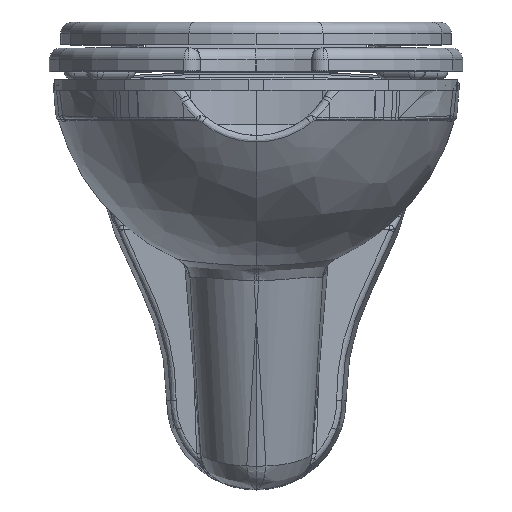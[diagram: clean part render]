
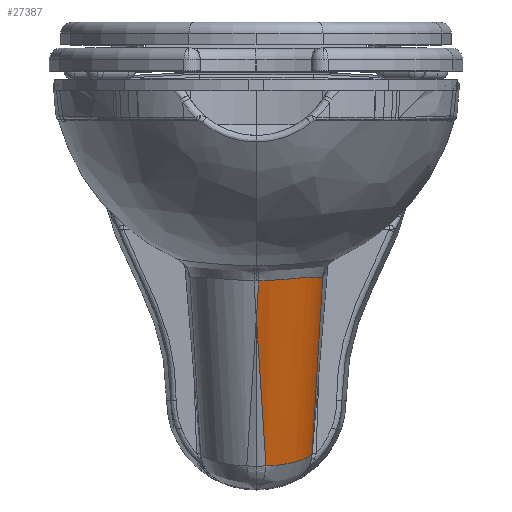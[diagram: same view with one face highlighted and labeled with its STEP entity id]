
A CAD part, top view. The second image highlights one B-rep face of the part: STEP entity #27387.
In plain terms, the highlighted cylindrical face has radius 58 mm (diameter 116 mm), a partial arc.
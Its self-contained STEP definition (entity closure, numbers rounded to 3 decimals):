
#38 = CARTESIAN_POINT ( 'NONE',  ( 2.937, -257.947, 136.846 ) ) ;
#125 = CARTESIAN_POINT ( 'NONE',  ( 38.672, -176.911, 149.078 ) ) ;
#708 = DIRECTION ( 'NONE',  ( 0., 0.304, -0.953 ) ) ;
#924 =( BOUNDED_CURVE ( )  B_SPLINE_CURVE ( 3, ( #8984, #22771, #38, #17175 ),
 .UNSPECIFIED., .F., .F. ) 
 B_SPLINE_CURVE_WITH_KNOTS ( ( 4, 4 ),
 ( 1.284, 1.571 ),
 .UNSPECIFIED. ) 
 CURVE ( )  GEOMETRIC_REPRESENTATION_ITEM ( )  RATIONAL_B_SPLINE_CURVE ( ( 1., 0.993, 0.993, 1. ) ) 
 REPRESENTATION_ITEM ( '' )  );
#2497 = CARTESIAN_POINT ( 'NONE',  ( 52.207, -176.061, 132.39 ) ) ;
#2984 = CARTESIAN_POINT ( 'NONE',  ( 29.766, -177.677, 155.145 ) ) ;
#3037 = CARTESIAN_POINT ( 'NONE',  ( 22.89, -343.127, 100.398 ) ) ;
#3147 = CARTESIAN_POINT ( 'NONE',  ( 17.879, -343.705, 103.159 ) ) ;
#3152 = CARTESIAN_POINT ( 'NONE',  ( 5.086, -130.276, 177.591 ) ) ;
#3271 = CARTESIAN_POINT ( 'NONE',  ( 19.16, -343.578, 102.511 ) ) ;
#4056 = AXIS2_PLACEMENT_3D ( 'NONE', #34810, #17712, #708 ) ;
#5494 = CARTESIAN_POINT ( 'NONE',  ( 59.149, -176.144, 108.26 ) ) ;
#5614 = CARTESIAN_POINT ( 'NONE',  ( 14.613, -178.845, 160.697 ) ) ;
#5741 = CARTESIAN_POINT ( 'NONE',  ( 55.198, -175.988, 125.856 ) ) ;
#5921 = CARTESIAN_POINT ( 'NONE',  ( 32.903, -341.24, 92.663 ) ) ;
#6047 = CARTESIAN_POINT ( 'NONE',  ( 48.888, -334.497, 63.644 ) ) ;
#6109 = B_SPLINE_CURVE_WITH_KNOTS ( 'NONE', 3,
 ( #28409, #17436, #6047, #22912, #20040, #9003, #14461, #28887, #17079, #11850, #31673, #5921, #31796, #25538, #14219, #3037, #22667, #3271, #3147, #34164, #8638, #14578, #34284, #25786 ),
 .UNSPECIFIED., .F., .F.,
 ( 4, 2, 2, 2, 2, 2, 2, 2, 2, 2, 2, 4 ),
 ( 0., 0.009, 0.017, 0.026, 0.034, 0.038, 0.043, 0.051, 0.056, 0.06, 0.064, 0.068 ),
 .UNSPECIFIED. ) ;
#6415 = CARTESIAN_POINT ( 'NONE',  ( 0.064, -213.313, 151.09 ) ) ;
#7404 = CARTESIAN_POINT ( 'NONE',  ( 49.634, -333.486, 58.045 ) ) ;
#7807 = EDGE_CURVE ( 'NONE', #16585, #34028, #6109, .T. ) ;
#8048 = VECTOR ( 'NONE', #35105, 1000. ) ;
#8207 = CARTESIAN_POINT ( 'NONE',  ( 18.965, -178.543, 159.579 ) ) ;
#8444 = CARTESIAN_POINT ( 'NONE',  ( 59.149, -176.144, 108.26 ) ) ;
#8456 = CARTESIAN_POINT ( 'NONE',  ( 34.353, -177.273, 152.359 ) ) ;
#8573 = VERTEX_POINT ( 'NONE', #6415 ) ;
#8638 = CARTESIAN_POINT ( 'NONE',  ( 13.952, -344.008, 104.922 ) ) ;
#8984 = CARTESIAN_POINT ( 'NONE',  ( 8.534, -344.214, 106.829 ) ) ;
#9003 = CARTESIAN_POINT ( 'NONE',  ( 44.437, -337.332, 76.923 ) ) ;
#10897 = ORIENTED_EDGE ( 'NONE', *, *, #29330, .F. ) ;
#11060 = CARTESIAN_POINT ( 'NONE',  ( 31.323, -177.537, 154.269 ) ) ;
#11069 = ORIENTED_EDGE ( 'NONE', *, *, #7807, .F. ) ;
#11310 = CARTESIAN_POINT ( 'NONE',  ( 50.382, -176.135, 135.524 ) ) ;
#11427 = CARTESIAN_POINT ( 'NONE',  ( 19.83, -178.48, 159.317 ) ) ;
#11734 = DIRECTION ( 'NONE',  ( -0.058, -0.951, -0.304 ) ) ;
#11850 = CARTESIAN_POINT ( 'NONE',  ( 35.848, -340.463, 89.609 ) ) ;
#12261 = CARTESIAN_POINT ( 'NONE',  ( 2.11, -179.487, 161.885 ) ) ;
#13745 = EDGE_CURVE ( 'NONE', #20874, #8573, #34273, .T. ) ;
#13784 = CARTESIAN_POINT ( 'NONE',  ( 26.569, -177.95, 156.747 ) ) ;
#14219 = CARTESIAN_POINT ( 'NONE',  ( 26.456, -342.596, 98.09 ) ) ;
#14461 = CARTESIAN_POINT ( 'NONE',  ( 43.149, -337.922, 79.405 ) ) ;
#14578 = CARTESIAN_POINT ( 'NONE',  ( 11.262, -344.142, 105.948 ) ) ;
#16172 = VERTEX_POINT ( 'NONE', #8444 ) ;
#16585 = VERTEX_POINT ( 'NONE', #7404 ) ;
#16621 = B_SPLINE_CURVE_WITH_KNOTS ( 'NONE', 3,
 ( #17134, #22611, #36838, #5614, #25478, #8207, #11427, #22486, #36961, #28108, #13784, #2984, #11060, #8456, #16894, #33737, #125, #17016, #28350, #25235, #16772, #28475, #31370, #11310, #19479, #2497, #30991, #31249, #5741, #31120, #22363, #25596, #22854, #28233, #33862, #36722, #19609, #5494 ),
 .UNSPECIFIED., .F., .F.,
 ( 4, 2, 2, 2, 2, 2, 2, 2, 2, 2, 2, 2, 2, 2, 2, 2, 2, 2, 4 ),
 ( 0., 0.011, 0.016, 0.019, 0.022, 0.027, 0.032, 0.038, 0.04, 0.043, 0.054, 0.056, 0.059, 0.065, 0.07, 0.075, 0.078, 0.081, 0.086 ),
 .UNSPECIFIED. ) ;
#16772 = CARTESIAN_POINT ( 'NONE',  ( 46.298, -176.347, 141.479 ) ) ;
#16894 = CARTESIAN_POINT ( 'NONE',  ( 35.825, -177.146, 151.326 ) ) ;
#17016 = CARTESIAN_POINT ( 'NONE',  ( 40.04, -176.801, 147.898 ) ) ;
#17079 = CARTESIAN_POINT ( 'NONE',  ( 38.581, -339.646, 86.394 ) ) ;
#17134 = CARTESIAN_POINT ( 'NONE',  ( 2.11, -179.487, 161.885 ) ) ;
#17175 = CARTESIAN_POINT ( 'NONE',  ( 0.064, -213.313, 151.09 ) ) ;
#17436 = CARTESIAN_POINT ( 'NONE',  ( 49.366, -333.976, 60.874 ) ) ;
#17712 = DIRECTION ( 'NONE',  ( -0.058, -0.951, -0.304 ) ) ;
#19479 = CARTESIAN_POINT ( 'NONE',  ( 50.854, -176.115, 134.745 ) ) ;
#19609 = CARTESIAN_POINT ( 'NONE',  ( 59.007, -176.116, 110.072 ) ) ;
#20040 = CARTESIAN_POINT ( 'NONE',  ( 46.636, -336.159, 71.725 ) ) ;
#20874 = VERTEX_POINT ( 'NONE', #12261 ) ;
#22363 = CARTESIAN_POINT ( 'NONE',  ( 56.92, -175.99, 120.742 ) ) ;
#22486 = CARTESIAN_POINT ( 'NONE',  ( 21.551, -178.35, 158.749 ) ) ;
#22611 = CARTESIAN_POINT ( 'NONE',  ( 5.745, -179.359, 161.926 ) ) ;
#22667 = CARTESIAN_POINT ( 'NONE',  ( 21.669, -343.289, 101.128 ) ) ;
#22771 = CARTESIAN_POINT ( 'NONE',  ( 5.779, -301.88, 121.991 ) ) ;
#22854 = CARTESIAN_POINT ( 'NONE',  ( 57.802, -176.02, 117.223 ) ) ;
#22912 = CARTESIAN_POINT ( 'NONE',  ( 47.523, -335.588, 69.069 ) ) ;
#25235 = CARTESIAN_POINT ( 'NONE',  ( 43.959, -176.502, 144.193 ) ) ;
#25478 = CARTESIAN_POINT ( 'NONE',  ( 16.362, -178.728, 160.301 ) ) ;
#25538 = CARTESIAN_POINT ( 'NONE',  ( 28.702, -342.181, 96.399 ) ) ;
#25596 = CARTESIAN_POINT ( 'NONE',  ( 57.596, -176.011, 118.11 ) ) ;
#25786 = CARTESIAN_POINT ( 'NONE',  ( 8.534, -344.214, 106.829 ) ) ;
#26281 = LINE ( 'NONE', #32369, #8048 ) ;
#26658 = VECTOR ( 'NONE', #11734, 1000. ) ;
#27387 = ADVANCED_FACE ( 'NONE', ( #33035 ), #33498, .T. ) ;
#28108 = CARTESIAN_POINT ( 'NONE',  ( 24.928, -178.085, 157.472 ) ) ;
#28233 = CARTESIAN_POINT ( 'NONE',  ( 58.176, -176.04, 115.447 ) ) ;
#28350 = CARTESIAN_POINT ( 'NONE',  ( 40.707, -176.749, 147.292 ) ) ;
#28409 = CARTESIAN_POINT ( 'NONE',  ( 49.634, -333.486, 58.045 ) ) ;
#28475 = CARTESIAN_POINT ( 'NONE',  ( 48.901, -176.207, 137.802 ) ) ;
#28887 = CARTESIAN_POINT ( 'NONE',  ( 40.222, -339.078, 84.14 ) ) ;
#28986 = EDGE_CURVE ( 'NONE', #16585, #16172, #26281, .T. ) ;
#29330 = EDGE_CURVE ( 'NONE', #20874, #16172, #16621, .T. ) ;
#30755 = EDGE_LOOP ( 'NONE', ( #34997, #35612, #11069, #36009, #10897 ) ) ;
#30991 = CARTESIAN_POINT ( 'NONE',  ( 53.03, -176.036, 130.787 ) ) ;
#31120 = CARTESIAN_POINT ( 'NONE',  ( 56.396, -175.982, 122.467 ) ) ;
#31249 = CARTESIAN_POINT ( 'NONE',  ( 54.525, -176., 127.52 ) ) ;
#31370 = CARTESIAN_POINT ( 'NONE',  ( 49.405, -176.181, 137.052 ) ) ;
#31673 = CARTESIAN_POINT ( 'NONE',  ( 34.887, -340.73, 90.656 ) ) ;
#31796 = CARTESIAN_POINT ( 'NONE',  ( 31.877, -341.485, 93.627 ) ) ;
#32065 = CARTESIAN_POINT ( 'NONE',  ( 8.534, -344.214, 106.829 ) ) ;
#32369 = CARTESIAN_POINT ( 'NONE',  ( 62.88, -114.451, 127.949 ) ) ;
#33035 = FACE_OUTER_BOUND ( 'NONE', #30755, .T. ) ;
#33498 = CYLINDRICAL_SURFACE ( 'NONE', #4056, 58. ) ;
#33737 = CARTESIAN_POINT ( 'NONE',  ( 37.969, -176.968, 149.655 ) ) ;
#33862 = CARTESIAN_POINT ( 'NONE',  ( 58.344, -176.052, 114.555 ) ) ;
#34028 = VERTEX_POINT ( 'NONE', #32065 ) ;
#34164 = CARTESIAN_POINT ( 'NONE',  ( 15.276, -343.92, 104.364 ) ) ;
#34273 = LINE ( 'NONE', #3152, #26658 ) ;
#34284 = CARTESIAN_POINT ( 'NONE',  ( 9.905, -344.189, 106.412 ) ) ;
#34810 = CARTESIAN_POINT ( 'NONE',  ( 5.086, -112.642, 122.336 ) ) ;
#34997 = ORIENTED_EDGE ( 'NONE', *, *, #13745, .T. ) ;
#35105 = DIRECTION ( 'NONE',  ( 0.058, 0.951, 0.304 ) ) ;
#35612 = ORIENTED_EDGE ( 'NONE', *, *, #36813, .F. ) ;
#36009 = ORIENTED_EDGE ( 'NONE', *, *, #28986, .T. ) ;
#36722 = CARTESIAN_POINT ( 'NONE',  ( 58.788, -176.088, 111.872 ) ) ;
#36813 = EDGE_CURVE ( 'NONE', #34028, #8573, #924, .T. ) ;
#36838 = CARTESIAN_POINT ( 'NONE',  ( 9.325, -179.172, 161.633 ) ) ;
#36961 = CARTESIAN_POINT ( 'NONE',  ( 22.405, -178.284, 158.444 ) ) ;
